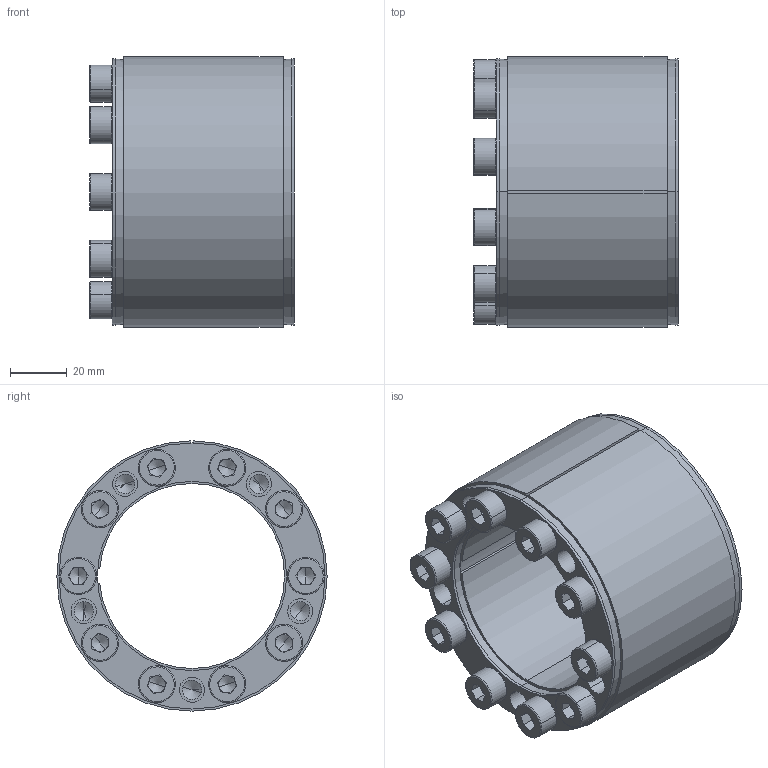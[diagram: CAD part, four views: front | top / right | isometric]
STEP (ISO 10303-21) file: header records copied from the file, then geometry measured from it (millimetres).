
FILE_DESCRIPTION (( 'STEP AP203' ), '1' );
FILE_NAME ('SAPL-D4-65-95.STEP', '2019-10-21T10:01:25', ( '' ), ( '' ), 'SwSTEP 2.0', 'SolidWorks 2015', '' );
FILE_SCHEMA (( 'CONFIG_CONTROL_DESIGN' ));
Length unit declared in the file: millimetre
Products named in the file (3): socket head cap screw_ks_KS 1003 - M8 x 55 x 28-N; D4-65-95 B; SAPL-D4-65-95
Assembly tree (11 placements, depth 2):
  SAPL-D4-65-95
    D4-65-95 B
    socket head cap screw_ks_KS 1003 - M8 x 55 x 28-N  x10
Bounding box: 72 x 95 x 95 mm (x, y, z)
Volume: 244454.8 mm3; surface area: 76854.4 mm2
Topology: 11 solids, 11 shells, 397 faces, 872 edges, 499 vertices
Faces by surface type: plane 166, cylinder 113, torus 60, cone 58
Entity records: 3959 total; most frequent: DIRECTION 674, CARTESIAN_POINT 564, ORIENTED_EDGE 532, AXIS2_PLACEMENT_3D 276, EDGE_CURVE 266, VERTEX_POINT 166, EDGE_LOOP 154, CIRCLE 144
